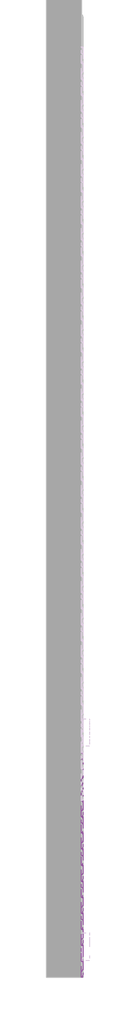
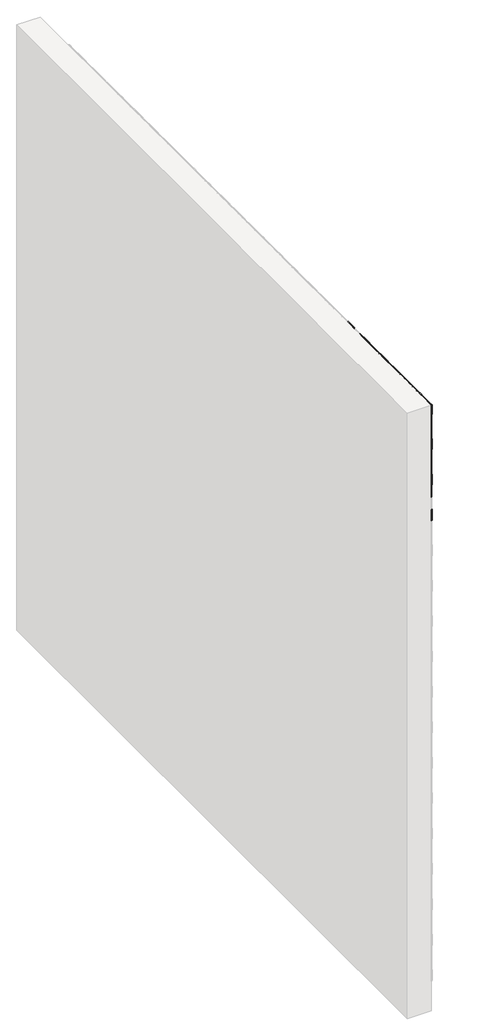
# One storey, part 53 of 121: 143 proxies.
"""IFC4 building model written with IfcOpenShell, lengths in millimetres."""

from ifc_helpers import new_model, si_unit, origin, place, context, project, spatial, transform, mapped, element, save
from components import generic_models_b2b2c5c1, generic_models_9bf73f6f, generic_models_5d175859, generic_models_65d4feed, generic_models_3c364290, generic_models_b652511d, generic_models_45888c4d, generic_models_eac52c18

model = new_model("IFC4")

# Units and contexts
model_context = context("Model", 3, world=origin())
ifc_project = project(units=[si_unit("LENGTHUNIT", "METRE", prefix="MILLI")], contexts=[model_context])

# Site, building, storey
site = spatial("IfcSite", under=ifc_project)
building = spatial("IfcBuilding", under=site)
storey = spatial("IfcBuildingStorey", under=building, Name="PORTOBELLO - SHOWROOM", Elevation=0.0)

# Proxies
placement = place(None, origin())
generic_models_shape = generic_models_b2b2c5c1(model_context)
element("IfcBuildingElementProxy", 1, Name="PBSHOP - CUBICA NUDE 4,8X8,3 : CUBICA NUDE - POSIÇÃO 01", ObjectType="PBSHOP - CUBICA NUDE 4,8X8,3 : CUBICA NUDE - POSIÇÃO 01", at=placement, inside=storey, context=model_context, shape_type="MappedRepresentation", body=[
    mapped(generic_models_shape, transform((150369.5341846, 6578.2262841, 2249.5920413), x_axis=(0.0, 1.0, 0.0), y_axis=(0.0, 0.0, 1.0), z_axis=(1.0, 0.0, 0.0))),
])
element("IfcBuildingElementProxy", 2, Name="PBSHOP - CUBICA NUDE 4,8X8,3 : CUBICA NUDE - POSIÇÃO 01", ObjectType="PBSHOP - CUBICA NUDE 4,8X8,3 : CUBICA NUDE - POSIÇÃO 01", at=placement, inside=storey, context=model_context, shape_type="MappedRepresentation", body=[
    mapped(generic_models_shape, transform((150369.5341846, 6669.0655533, 2249.5920413), x_axis=(0.0, 1.0, 0.0), y_axis=(0.0, 0.0, 1.0), z_axis=(1.0, 0.0, 0.0))),
])
element("IfcBuildingElementProxy", 3, Name="PBSHOP - CUBICA NUDE 4,8X8,3 : CUBICA NUDE - POSIÇÃO 01", ObjectType="PBSHOP - CUBICA NUDE 4,8X8,3 : CUBICA NUDE - POSIÇÃO 01", at=placement, inside=storey, context=model_context, shape_type="MappedRepresentation", body=[
    mapped(generic_models_shape, transform((150369.5341846, 6759.9048225, 2249.5920413), x_axis=(0.0, 1.0, 0.0), y_axis=(0.0, 0.0, 1.0), z_axis=(1.0, 0.0, 0.0))),
])
element("IfcBuildingElementProxy", 4, Name="PBSHOP - CUBICA NUDE 4,8X8,3 : CUBICA NUDE - POSIÇÃO 01", ObjectType="PBSHOP - CUBICA NUDE 4,8X8,3 : CUBICA NUDE - POSIÇÃO 01", at=placement, inside=storey, context=model_context, shape_type="MappedRepresentation", body=[
    mapped(generic_models_shape, transform((150369.5341846, 6850.7440918, 2249.5920413), x_axis=(0.0, 1.0, 0.0), y_axis=(0.0, 0.0, 1.0), z_axis=(1.0, 0.0, 0.0))),
])
element("IfcBuildingElementProxy", 5, Name="PBSHOP - CUBICA NUDE 4,8X8,3 : CUBICA NUDE - POSIÇÃO 01", ObjectType="PBSHOP - CUBICA NUDE 4,8X8,3 : CUBICA NUDE - POSIÇÃO 01", at=placement, inside=storey, context=model_context, shape_type="MappedRepresentation", body=[
    mapped(generic_models_shape, transform((150369.5341846, 6941.583361, 2249.5920413), x_axis=(0.0, 1.0, 0.0), y_axis=(0.0, 0.0, 1.0), z_axis=(1.0, 0.0, 0.0))),
])
element("IfcBuildingElementProxy", 6, Name="PBSHOP - CUBICA NUDE 4,8X8,3 : CUBICA NUDE - POSIÇÃO 01", ObjectType="PBSHOP - CUBICA NUDE 4,8X8,3 : CUBICA NUDE - POSIÇÃO 01", at=placement, inside=storey, context=model_context, shape_type="MappedRepresentation", body=[
    mapped(generic_models_shape, transform((150369.5341846, 6441.9673802, 2328.5266797), x_axis=(0.0, 1.0, 0.0), y_axis=(0.0, 0.0, 1.0), z_axis=(1.0, 0.0, 0.0))),
])
element("IfcBuildingElementProxy", 7, Name="PBSHOP - CUBICA NUDE 4,8X8,3 : CUBICA NUDE - POSIÇÃO 01", ObjectType="PBSHOP - CUBICA NUDE 4,8X8,3 : CUBICA NUDE - POSIÇÃO 01", at=placement, inside=storey, context=model_context, shape_type="MappedRepresentation", body=[
    mapped(generic_models_shape, transform((150369.5341846, 6532.8066494, 2328.5266797), x_axis=(0.0, 1.0, 0.0), y_axis=(0.0, 0.0, 1.0), z_axis=(1.0, 0.0, 0.0))),
])
element("IfcBuildingElementProxy", 8, Name="PBSHOP - CUBICA NUDE 4,8X8,3 : CUBICA NUDE - POSIÇÃO 01", ObjectType="PBSHOP - CUBICA NUDE 4,8X8,3 : CUBICA NUDE - POSIÇÃO 01", at=placement, inside=storey, context=model_context, shape_type="MappedRepresentation", body=[
    mapped(generic_models_shape, transform((150369.5341846, 6623.6459187, 2328.5266797), x_axis=(0.0, 1.0, 0.0), y_axis=(0.0, 0.0, 1.0), z_axis=(1.0, 0.0, 0.0))),
])
element("IfcBuildingElementProxy", 9, Name="PBSHOP - CUBICA NUDE 4,8X8,3 : CUBICA NUDE - POSIÇÃO 01", ObjectType="PBSHOP - CUBICA NUDE 4,8X8,3 : CUBICA NUDE - POSIÇÃO 01", at=placement, inside=storey, context=model_context, shape_type="MappedRepresentation", body=[
    mapped(generic_models_shape, transform((150369.5341846, 6714.4851879, 2328.5266797), x_axis=(0.0, 1.0, 0.0), y_axis=(0.0, 0.0, 1.0), z_axis=(1.0, 0.0, 0.0))),
])
element("IfcBuildingElementProxy", 10, Name="PBSHOP - CUBICA NUDE 4,8X8,3 : CUBICA NUDE - POSIÇÃO 01", ObjectType="PBSHOP - CUBICA NUDE 4,8X8,3 : CUBICA NUDE - POSIÇÃO 01", at=placement, inside=storey, context=model_context, shape_type="MappedRepresentation", body=[
    mapped(generic_models_shape, transform((150369.5341846, 6805.3244572, 2328.5266797), x_axis=(0.0, 1.0, 0.0), y_axis=(0.0, 0.0, 1.0), z_axis=(1.0, 0.0, 0.0))),
])
element("IfcBuildingElementProxy", 11, Name="PBSHOP - CUBICA NUDE 4,8X8,3 : CUBICA NUDE - POSIÇÃO 01", ObjectType="PBSHOP - CUBICA NUDE 4,8X8,3 : CUBICA NUDE - POSIÇÃO 01", at=placement, inside=storey, context=model_context, shape_type="MappedRepresentation", body=[
    mapped(generic_models_shape, transform((150369.5341846, 6896.1637264, 2328.5266797), x_axis=(0.0, 1.0, 0.0), y_axis=(0.0, 0.0, 1.0), z_axis=(1.0, 0.0, 0.0))),
])
element("IfcBuildingElementProxy", 12, Name="PBSHOP - CUBICA NUDE 4,8X8,3 : CUBICA NUDE - POSIÇÃO 01", ObjectType="PBSHOP - CUBICA NUDE 4,8X8,3 : CUBICA NUDE - POSIÇÃO 01", at=placement, inside=storey, context=model_context, shape_type="MappedRepresentation", body=[
    mapped(generic_models_shape, transform((150369.5341846, 6987.0029957, 2328.5266797), x_axis=(0.0, 1.0, 0.0), y_axis=(0.0, 0.0, 1.0), z_axis=(1.0, 0.0, 0.0))),
])
element("IfcBuildingElementProxy", 13, Name="PBSHOP - CUBICA NUDE 4,8X8,3 : CUBICA NUDE - POSIÇÃO 01", ObjectType="PBSHOP - CUBICA NUDE 4,8X8,3 : CUBICA NUDE - POSIÇÃO 01", at=placement, inside=storey, context=model_context, shape_type="MappedRepresentation", body=[
    mapped(generic_models_shape, transform((150369.5341846, 6396.5477456, 2407.461318), x_axis=(0.0, 1.0, 0.0), y_axis=(0.0, 0.0, 1.0), z_axis=(1.0, 0.0, 0.0))),
])
element("IfcBuildingElementProxy", 14, Name="PBSHOP - CUBICA NUDE 4,8X8,3 : CUBICA NUDE - POSIÇÃO 01", ObjectType="PBSHOP - CUBICA NUDE 4,8X8,3 : CUBICA NUDE - POSIÇÃO 01", at=placement, inside=storey, context=model_context, shape_type="MappedRepresentation", body=[
    mapped(generic_models_shape, transform((150369.5341846, 6487.3870148, 2407.461318), x_axis=(0.0, 1.0, 0.0), y_axis=(0.0, 0.0, 1.0), z_axis=(1.0, 0.0, 0.0))),
])
element("IfcBuildingElementProxy", 15, Name="PBSHOP - CUBICA NUDE 4,8X8,3 : CUBICA NUDE - POSIÇÃO 01", ObjectType="PBSHOP - CUBICA NUDE 4,8X8,3 : CUBICA NUDE - POSIÇÃO 01", at=placement, inside=storey, context=model_context, shape_type="MappedRepresentation", body=[
    mapped(generic_models_shape, transform((150369.5341846, 6578.2262841, 2407.461318), x_axis=(0.0, 1.0, 0.0), y_axis=(0.0, 0.0, 1.0), z_axis=(1.0, 0.0, 0.0))),
])
element("IfcBuildingElementProxy", 16, Name="PBSHOP - CUBICA NUDE 4,8X8,3 : CUBICA NUDE - POSIÇÃO 01", ObjectType="PBSHOP - CUBICA NUDE 4,8X8,3 : CUBICA NUDE - POSIÇÃO 01", at=placement, inside=storey, context=model_context, shape_type="MappedRepresentation", body=[
    mapped(generic_models_shape, transform((150369.5341846, 6669.0655533, 2407.461318), x_axis=(0.0, 1.0, 0.0), y_axis=(0.0, 0.0, 1.0), z_axis=(1.0, 0.0, 0.0))),
])
element("IfcBuildingElementProxy", 17, Name="PBSHOP - CUBICA NUDE 4,8X8,3 : CUBICA NUDE - POSIÇÃO 01", ObjectType="PBSHOP - CUBICA NUDE 4,8X8,3 : CUBICA NUDE - POSIÇÃO 01", at=placement, inside=storey, context=model_context, shape_type="MappedRepresentation", body=[
    mapped(generic_models_shape, transform((150369.5341846, 6759.9048225, 2407.461318), x_axis=(0.0, 1.0, 0.0), y_axis=(0.0, 0.0, 1.0), z_axis=(1.0, 0.0, 0.0))),
])
element("IfcBuildingElementProxy", 18, Name="PBSHOP - CUBICA NUDE 4,8X8,3 : CUBICA NUDE - POSIÇÃO 01", ObjectType="PBSHOP - CUBICA NUDE 4,8X8,3 : CUBICA NUDE - POSIÇÃO 01", at=placement, inside=storey, context=model_context, shape_type="MappedRepresentation", body=[
    mapped(generic_models_shape, transform((150369.5341846, 6850.7440918, 2407.461318), x_axis=(0.0, 1.0, 0.0), y_axis=(0.0, 0.0, 1.0), z_axis=(1.0, 0.0, 0.0))),
])
element("IfcBuildingElementProxy", 19, Name="PBSHOP - CUBICA NUDE 4,8X8,3 : CUBICA NUDE - POSIÇÃO 01", ObjectType="PBSHOP - CUBICA NUDE 4,8X8,3 : CUBICA NUDE - POSIÇÃO 01", at=placement, inside=storey, context=model_context, shape_type="MappedRepresentation", body=[
    mapped(generic_models_shape, transform((150369.5341846, 6941.583361, 2407.461318), x_axis=(0.0, 1.0, 0.0), y_axis=(0.0, 0.0, 1.0), z_axis=(1.0, 0.0, 0.0))),
])
element("IfcBuildingElementProxy", 20, Name="PBSHOP - CUBICA NUDE 4,8X8,3 : CUBICA NUDE - POSIÇÃO 01", ObjectType="PBSHOP - CUBICA NUDE 4,8X8,3 : CUBICA NUDE - POSIÇÃO 01", at=placement, inside=storey, context=model_context, shape_type="MappedRepresentation", body=[
    mapped(generic_models_shape, transform((150369.5341846, 6441.9673802, 2486.3959564), x_axis=(0.0, 1.0, 0.0), y_axis=(0.0, 0.0, 1.0), z_axis=(1.0, 0.0, 0.0))),
])
element("IfcBuildingElementProxy", 21, Name="PBSHOP - CUBICA NUDE 4,8X8,3 : CUBICA NUDE - POSIÇÃO 01", ObjectType="PBSHOP - CUBICA NUDE 4,8X8,3 : CUBICA NUDE - POSIÇÃO 01", at=placement, inside=storey, context=model_context, shape_type="MappedRepresentation", body=[
    mapped(generic_models_shape, transform((150369.5341846, 6532.8066494, 2486.3959564), x_axis=(0.0, 1.0, 0.0), y_axis=(0.0, 0.0, 1.0), z_axis=(1.0, 0.0, 0.0))),
])
element("IfcBuildingElementProxy", 22, Name="PBSHOP - CUBICA NUDE 4,8X8,3 : CUBICA NUDE - POSIÇÃO 01", ObjectType="PBSHOP - CUBICA NUDE 4,8X8,3 : CUBICA NUDE - POSIÇÃO 01", at=placement, inside=storey, context=model_context, shape_type="MappedRepresentation", body=[
    mapped(generic_models_shape, transform((150369.5341846, 6623.6459187, 2486.3959564), x_axis=(0.0, 1.0, 0.0), y_axis=(0.0, 0.0, 1.0), z_axis=(1.0, 0.0, 0.0))),
])
element("IfcBuildingElementProxy", 23, Name="PBSHOP - CUBICA NUDE 4,8X8,3 : CUBICA NUDE - POSIÇÃO 01", ObjectType="PBSHOP - CUBICA NUDE 4,8X8,3 : CUBICA NUDE - POSIÇÃO 01", at=placement, inside=storey, context=model_context, shape_type="MappedRepresentation", body=[
    mapped(generic_models_shape, transform((150369.5341846, 6714.4851879, 2486.3959564), x_axis=(0.0, 1.0, 0.0), y_axis=(0.0, 0.0, 1.0), z_axis=(1.0, 0.0, 0.0))),
])
element("IfcBuildingElementProxy", 24, Name="PBSHOP - CUBICA NUDE 4,8X8,3 : CUBICA NUDE - POSIÇÃO 01", ObjectType="PBSHOP - CUBICA NUDE 4,8X8,3 : CUBICA NUDE - POSIÇÃO 01", at=placement, inside=storey, context=model_context, shape_type="MappedRepresentation", body=[
    mapped(generic_models_shape, transform((150369.5341846, 6805.3244572, 2486.3959564), x_axis=(0.0, 1.0, 0.0), y_axis=(0.0, 0.0, 1.0), z_axis=(1.0, 0.0, 0.0))),
])
element("IfcBuildingElementProxy", 25, Name="PBSHOP - CUBICA NUDE 4,8X8,3 : CUBICA NUDE - POSIÇÃO 01", ObjectType="PBSHOP - CUBICA NUDE 4,8X8,3 : CUBICA NUDE - POSIÇÃO 01", at=placement, inside=storey, context=model_context, shape_type="MappedRepresentation", body=[
    mapped(generic_models_shape, transform((150369.5341846, 6896.1637264, 2486.3959564), x_axis=(0.0, 1.0, 0.0), y_axis=(0.0, 0.0, 1.0), z_axis=(1.0, 0.0, 0.0))),
])
element("IfcBuildingElementProxy", 26, Name="PBSHOP - CUBICA NUDE 4,8X8,3 : CUBICA NUDE - POSIÇÃO 01", ObjectType="PBSHOP - CUBICA NUDE 4,8X8,3 : CUBICA NUDE - POSIÇÃO 01", at=placement, inside=storey, context=model_context, shape_type="MappedRepresentation", body=[
    mapped(generic_models_shape, transform((150369.5341846, 6987.0029957, 2486.3959564), x_axis=(0.0, 1.0, 0.0), y_axis=(0.0, 0.0, 1.0), z_axis=(1.0, 0.0, 0.0))),
])
element("IfcBuildingElementProxy", 27, Name="PBSHOP - CUBICA NUDE 4,8X8,3 : CUBICA NUDE - POSIÇÃO 01", ObjectType="PBSHOP - CUBICA NUDE 4,8X8,3 : CUBICA NUDE - POSIÇÃO 01", at=placement, inside=storey, context=model_context, shape_type="MappedRepresentation", body=[
    mapped(generic_models_shape, transform((150369.5341846, 6396.5477456, 2565.3305948), x_axis=(0.0, 1.0, 0.0), y_axis=(0.0, 0.0, 1.0), z_axis=(1.0, 0.0, 0.0))),
])
element("IfcBuildingElementProxy", 28, Name="PBSHOP - CUBICA NUDE 4,8X8,3 : CUBICA NUDE - POSIÇÃO 01", ObjectType="PBSHOP - CUBICA NUDE 4,8X8,3 : CUBICA NUDE - POSIÇÃO 01", at=placement, inside=storey, context=model_context, shape_type="MappedRepresentation", body=[
    mapped(generic_models_shape, transform((150369.5341846, 6487.3870148, 2565.3305948), x_axis=(0.0, 1.0, 0.0), y_axis=(0.0, 0.0, 1.0), z_axis=(1.0, 0.0, 0.0))),
])
element("IfcBuildingElementProxy", 29, Name="PBSHOP - CUBICA NUDE 4,8X8,3 : CUBICA NUDE - POSIÇÃO 01", ObjectType="PBSHOP - CUBICA NUDE 4,8X8,3 : CUBICA NUDE - POSIÇÃO 01", at=placement, inside=storey, context=model_context, shape_type="MappedRepresentation", body=[
    mapped(generic_models_shape, transform((150369.5341846, 6578.2262841, 2565.3305948), x_axis=(0.0, 1.0, 0.0), y_axis=(0.0, 0.0, 1.0), z_axis=(1.0, 0.0, 0.0))),
])
element("IfcBuildingElementProxy", 30, Name="PBSHOP - CUBICA NUDE 4,8X8,3 : CUBICA NUDE - POSIÇÃO 01", ObjectType="PBSHOP - CUBICA NUDE 4,8X8,3 : CUBICA NUDE - POSIÇÃO 01", at=placement, inside=storey, context=model_context, shape_type="MappedRepresentation", body=[
    mapped(generic_models_shape, transform((150369.5341846, 6669.0655533, 2565.3305948), x_axis=(0.0, 1.0, 0.0), y_axis=(0.0, 0.0, 1.0), z_axis=(1.0, 0.0, 0.0))),
])
element("IfcBuildingElementProxy", 31, Name="PBSHOP - CUBICA NUDE 4,8X8,3 : CUBICA NUDE - POSIÇÃO 01", ObjectType="PBSHOP - CUBICA NUDE 4,8X8,3 : CUBICA NUDE - POSIÇÃO 01", at=placement, inside=storey, context=model_context, shape_type="MappedRepresentation", body=[
    mapped(generic_models_shape, transform((150369.5341846, 6759.9048225, 2565.3305948), x_axis=(0.0, 1.0, 0.0), y_axis=(0.0, 0.0, 1.0), z_axis=(1.0, 0.0, 0.0))),
])
element("IfcBuildingElementProxy", 32, Name="PBSHOP - CUBICA NUDE 4,8X8,3 : CUBICA NUDE - POSIÇÃO 01", ObjectType="PBSHOP - CUBICA NUDE 4,8X8,3 : CUBICA NUDE - POSIÇÃO 01", at=placement, inside=storey, context=model_context, shape_type="MappedRepresentation", body=[
    mapped(generic_models_shape, transform((150369.5341846, 6850.7440918, 2565.3305948), x_axis=(0.0, 1.0, 0.0), y_axis=(0.0, 0.0, 1.0), z_axis=(1.0, 0.0, 0.0))),
])
element("IfcBuildingElementProxy", 33, Name="PBSHOP - CUBICA NUDE 4,8X8,3 : CUBICA NUDE - POSIÇÃO 01", ObjectType="PBSHOP - CUBICA NUDE 4,8X8,3 : CUBICA NUDE - POSIÇÃO 01", at=placement, inside=storey, context=model_context, shape_type="MappedRepresentation", body=[
    mapped(generic_models_shape, transform((150369.5341846, 6941.583361, 2565.3305948), x_axis=(0.0, 1.0, 0.0), y_axis=(0.0, 0.0, 1.0), z_axis=(1.0, 0.0, 0.0))),
])
element("IfcBuildingElementProxy", 34, Name="PBSHOP - CUBICA NUDE 4,8X8,3 : CUBICA NUDE - POSIÇÃO 01", ObjectType="PBSHOP - CUBICA NUDE 4,8X8,3 : CUBICA NUDE - POSIÇÃO 01", at=placement, inside=storey, context=model_context, shape_type="MappedRepresentation", body=[
    mapped(generic_models_shape, transform((150369.5341846, 6441.9673802, 2644.2652332), x_axis=(0.0, 1.0, 0.0), y_axis=(0.0, 0.0, 1.0), z_axis=(1.0, 0.0, 0.0))),
])
element("IfcBuildingElementProxy", 35, Name="PBSHOP - CUBICA NUDE 4,8X8,3 : CUBICA NUDE - POSIÇÃO 01", ObjectType="PBSHOP - CUBICA NUDE 4,8X8,3 : CUBICA NUDE - POSIÇÃO 01", at=placement, inside=storey, context=model_context, shape_type="MappedRepresentation", body=[
    mapped(generic_models_shape, transform((150369.5341846, 6532.8066494, 2644.2652332), x_axis=(0.0, 1.0, 0.0), y_axis=(0.0, 0.0, 1.0), z_axis=(1.0, 0.0, 0.0))),
])
element("IfcBuildingElementProxy", 36, Name="PBSHOP - CUBICA NUDE 4,8X8,3 : CUBICA NUDE - POSIÇÃO 01", ObjectType="PBSHOP - CUBICA NUDE 4,8X8,3 : CUBICA NUDE - POSIÇÃO 01", at=placement, inside=storey, context=model_context, shape_type="MappedRepresentation", body=[
    mapped(generic_models_shape, transform((150369.5341846, 6623.6459187, 2644.2652332), x_axis=(0.0, 1.0, 0.0), y_axis=(0.0, 0.0, 1.0), z_axis=(1.0, 0.0, 0.0))),
])
element("IfcBuildingElementProxy", 37, Name="PBSHOP - CUBICA NUDE 4,8X8,3 : CUBICA NUDE - POSIÇÃO 01", ObjectType="PBSHOP - CUBICA NUDE 4,8X8,3 : CUBICA NUDE - POSIÇÃO 01", at=placement, inside=storey, context=model_context, shape_type="MappedRepresentation", body=[
    mapped(generic_models_shape, transform((150369.5341846, 6714.4851879, 2644.2652332), x_axis=(0.0, 1.0, 0.0), y_axis=(0.0, 0.0, 1.0), z_axis=(1.0, 0.0, 0.0))),
])
element("IfcBuildingElementProxy", 38, Name="PBSHOP - CUBICA NUDE 4,8X8,3 : CUBICA NUDE - POSIÇÃO 01", ObjectType="PBSHOP - CUBICA NUDE 4,8X8,3 : CUBICA NUDE - POSIÇÃO 01", at=placement, inside=storey, context=model_context, shape_type="MappedRepresentation", body=[
    mapped(generic_models_shape, transform((150369.5341846, 6805.3244572, 2644.2652332), x_axis=(0.0, 1.0, 0.0), y_axis=(0.0, 0.0, 1.0), z_axis=(1.0, 0.0, 0.0))),
])
element("IfcBuildingElementProxy", 39, Name="PBSHOP - CUBICA NUDE 4,8X8,3 : CUBICA NUDE - POSIÇÃO 01", ObjectType="PBSHOP - CUBICA NUDE 4,8X8,3 : CUBICA NUDE - POSIÇÃO 01", at=placement, inside=storey, context=model_context, shape_type="MappedRepresentation", body=[
    mapped(generic_models_shape, transform((150369.5341846, 6896.1637264, 2644.2652332), x_axis=(0.0, 1.0, 0.0), y_axis=(0.0, 0.0, 1.0), z_axis=(1.0, 0.0, 0.0))),
])
element("IfcBuildingElementProxy", 40, Name="PBSHOP - CUBICA NUDE 4,8X8,3 : CUBICA NUDE - POSIÇÃO 01", ObjectType="PBSHOP - CUBICA NUDE 4,8X8,3 : CUBICA NUDE - POSIÇÃO 01", at=placement, inside=storey, context=model_context, shape_type="MappedRepresentation", body=[
    mapped(generic_models_shape, transform((150369.5341846, 6987.0029957, 2644.2652332), x_axis=(0.0, 1.0, 0.0), y_axis=(0.0, 0.0, 1.0), z_axis=(1.0, 0.0, 0.0))),
])
generic_models_2_shape = generic_models_9bf73f6f(model_context)
element("IfcBuildingElementProxy", 41, Name="PBSHOP - CUBICA NUDE 4,8X8,3 : CUBICA NUDE - POSIÇÃO 03", ObjectType="PBSHOP - CUBICA NUDE 4,8X8,3 : CUBICA NUDE - POSIÇÃO 03", at=placement, inside=storey, context=model_context, shape_type="MappedRepresentation", body=[
    mapped(generic_models_2_shape, transform((150369.5341846, 6464.6793567, 2210.0835117), x_axis=(0.0, 1.0, 0.0), y_axis=(0.0, 0.0, 1.0), z_axis=(1.0, 0.0, 0.0))),
])
element("IfcBuildingElementProxy", 42, Name="PBSHOP - CUBICA NUDE 4,8X8,3 : CUBICA NUDE - POSIÇÃO 03", ObjectType="PBSHOP - CUBICA NUDE 4,8X8,3 : CUBICA NUDE - POSIÇÃO 03", at=placement, inside=storey, context=model_context, shape_type="MappedRepresentation", body=[
    mapped(generic_models_2_shape, transform((150369.5341846, 6555.5186259, 2210.0835117), x_axis=(0.0, 1.0, 0.0), y_axis=(0.0, 0.0, 1.0), z_axis=(1.0, 0.0, 0.0))),
])
element("IfcBuildingElementProxy", 43, Name="PBSHOP - CUBICA NUDE 4,8X8,3 : CUBICA NUDE - POSIÇÃO 03", ObjectType="PBSHOP - CUBICA NUDE 4,8X8,3 : CUBICA NUDE - POSIÇÃO 03", at=placement, inside=storey, context=model_context, shape_type="MappedRepresentation", body=[
    mapped(generic_models_2_shape, transform((150369.5341846, 6646.3578952, 2210.0835117), x_axis=(0.0, 1.0, 0.0), y_axis=(0.0, 0.0, 1.0), z_axis=(1.0, 0.0, 0.0))),
])
element("IfcBuildingElementProxy", 44, Name="PBSHOP - CUBICA NUDE 4,8X8,3 : CUBICA NUDE - POSIÇÃO 03", ObjectType="PBSHOP - CUBICA NUDE 4,8X8,3 : CUBICA NUDE - POSIÇÃO 03", at=placement, inside=storey, context=model_context, shape_type="MappedRepresentation", body=[
    mapped(generic_models_2_shape, transform((150369.5341846, 6737.1971644, 2210.0835117), x_axis=(0.0, 1.0, 0.0), y_axis=(0.0, 0.0, 1.0), z_axis=(1.0, 0.0, 0.0))),
])
element("IfcBuildingElementProxy", 45, Name="PBSHOP - CUBICA NUDE 4,8X8,3 : CUBICA NUDE - POSIÇÃO 03", ObjectType="PBSHOP - CUBICA NUDE 4,8X8,3 : CUBICA NUDE - POSIÇÃO 03", at=placement, inside=storey, context=model_context, shape_type="MappedRepresentation", body=[
    mapped(generic_models_2_shape, transform((150369.5341846, 6828.0364336, 2210.0835117), x_axis=(0.0, 1.0, 0.0), y_axis=(0.0, 0.0, 1.0), z_axis=(1.0, 0.0, 0.0))),
])
element("IfcBuildingElementProxy", 46, Name="PBSHOP - CUBICA NUDE 4,8X8,3 : CUBICA NUDE - POSIÇÃO 03", ObjectType="PBSHOP - CUBICA NUDE 4,8X8,3 : CUBICA NUDE - POSIÇÃO 03", at=placement, inside=storey, context=model_context, shape_type="MappedRepresentation", body=[
    mapped(generic_models_2_shape, transform((150369.5341846, 6918.8757029, 2210.0835117), x_axis=(0.0, 1.0, 0.0), y_axis=(0.0, 0.0, 1.0), z_axis=(1.0, 0.0, 0.0))),
])
element("IfcBuildingElementProxy", 47, Name="PBSHOP - CUBICA NUDE 4,8X8,3 : CUBICA NUDE - POSIÇÃO 03", ObjectType="PBSHOP - CUBICA NUDE 4,8X8,3 : CUBICA NUDE - POSIÇÃO 03", at=placement, inside=storey, context=model_context, shape_type="MappedRepresentation", body=[
    mapped(generic_models_2_shape, transform((150369.5341846, 6419.259722, 2289.0181501), x_axis=(0.0, 1.0, 0.0), y_axis=(0.0, 0.0, 1.0), z_axis=(1.0, 0.0, 0.0))),
])
element("IfcBuildingElementProxy", 48, Name="PBSHOP - CUBICA NUDE 4,8X8,3 : CUBICA NUDE - POSIÇÃO 03", ObjectType="PBSHOP - CUBICA NUDE 4,8X8,3 : CUBICA NUDE - POSIÇÃO 03", at=placement, inside=storey, context=model_context, shape_type="MappedRepresentation", body=[
    mapped(generic_models_2_shape, transform((150369.5341846, 6510.0989913, 2289.0181501), x_axis=(0.0, 1.0, 0.0), y_axis=(0.0, 0.0, 1.0), z_axis=(1.0, 0.0, 0.0))),
])
element("IfcBuildingElementProxy", 49, Name="PBSHOP - CUBICA NUDE 4,8X8,3 : CUBICA NUDE - POSIÇÃO 03", ObjectType="PBSHOP - CUBICA NUDE 4,8X8,3 : CUBICA NUDE - POSIÇÃO 03", at=placement, inside=storey, context=model_context, shape_type="MappedRepresentation", body=[
    mapped(generic_models_2_shape, transform((150369.5341846, 6600.9382605, 2289.0181501), x_axis=(0.0, 1.0, 0.0), y_axis=(0.0, 0.0, 1.0), z_axis=(1.0, 0.0, 0.0))),
])
element("IfcBuildingElementProxy", 50, Name="PBSHOP - CUBICA NUDE 4,8X8,3 : CUBICA NUDE - POSIÇÃO 03", ObjectType="PBSHOP - CUBICA NUDE 4,8X8,3 : CUBICA NUDE - POSIÇÃO 03", at=placement, inside=storey, context=model_context, shape_type="MappedRepresentation", body=[
    mapped(generic_models_2_shape, transform((150369.5341846, 6691.7775298, 2289.0181501), x_axis=(0.0, 1.0, 0.0), y_axis=(0.0, 0.0, 1.0), z_axis=(1.0, 0.0, 0.0))),
])
element("IfcBuildingElementProxy", 51, Name="PBSHOP - CUBICA NUDE 4,8X8,3 : CUBICA NUDE - POSIÇÃO 03", ObjectType="PBSHOP - CUBICA NUDE 4,8X8,3 : CUBICA NUDE - POSIÇÃO 03", at=placement, inside=storey, context=model_context, shape_type="MappedRepresentation", body=[
    mapped(generic_models_2_shape, transform((150369.5341846, 6782.616799, 2289.0181501), x_axis=(0.0, 1.0, 0.0), y_axis=(0.0, 0.0, 1.0), z_axis=(1.0, 0.0, 0.0))),
])
element("IfcBuildingElementProxy", 52, Name="PBSHOP - CUBICA NUDE 4,8X8,3 : CUBICA NUDE - POSIÇÃO 03", ObjectType="PBSHOP - CUBICA NUDE 4,8X8,3 : CUBICA NUDE - POSIÇÃO 03", at=placement, inside=storey, context=model_context, shape_type="MappedRepresentation", body=[
    mapped(generic_models_2_shape, transform((150369.5341846, 6873.4560683, 2289.0181501), x_axis=(0.0, 1.0, 0.0), y_axis=(0.0, 0.0, 1.0), z_axis=(1.0, 0.0, 0.0))),
])
element("IfcBuildingElementProxy", 53, Name="PBSHOP - CUBICA NUDE 4,8X8,3 : CUBICA NUDE - POSIÇÃO 03", ObjectType="PBSHOP - CUBICA NUDE 4,8X8,3 : CUBICA NUDE - POSIÇÃO 03", at=placement, inside=storey, context=model_context, shape_type="MappedRepresentation", body=[
    mapped(generic_models_2_shape, transform((150369.5341846, 6964.2953375, 2289.0181501), x_axis=(0.0, 1.0, 0.0), y_axis=(0.0, 0.0, 1.0), z_axis=(1.0, 0.0, 0.0))),
])
element("IfcBuildingElementProxy", 54, Name="PBSHOP - CUBICA NUDE 4,8X8,3 : CUBICA NUDE - POSIÇÃO 03", ObjectType="PBSHOP - CUBICA NUDE 4,8X8,3 : CUBICA NUDE - POSIÇÃO 03", at=placement, inside=storey, context=model_context, shape_type="MappedRepresentation", body=[
    mapped(generic_models_2_shape, transform((150369.5341846, 6464.6793567, 2367.9527884), x_axis=(0.0, 1.0, 0.0), y_axis=(0.0, 0.0, 1.0), z_axis=(1.0, 0.0, 0.0))),
])
element("IfcBuildingElementProxy", 55, Name="PBSHOP - CUBICA NUDE 4,8X8,3 : CUBICA NUDE - POSIÇÃO 03", ObjectType="PBSHOP - CUBICA NUDE 4,8X8,3 : CUBICA NUDE - POSIÇÃO 03", at=placement, inside=storey, context=model_context, shape_type="MappedRepresentation", body=[
    mapped(generic_models_2_shape, transform((150369.5341846, 6555.5186259, 2367.9527884), x_axis=(0.0, 1.0, 0.0), y_axis=(0.0, 0.0, 1.0), z_axis=(1.0, 0.0, 0.0))),
])
element("IfcBuildingElementProxy", 56, Name="PBSHOP - CUBICA NUDE 4,8X8,3 : CUBICA NUDE - POSIÇÃO 03", ObjectType="PBSHOP - CUBICA NUDE 4,8X8,3 : CUBICA NUDE - POSIÇÃO 03", at=placement, inside=storey, context=model_context, shape_type="MappedRepresentation", body=[
    mapped(generic_models_2_shape, transform((150369.5341846, 6646.3578952, 2367.9527884), x_axis=(0.0, 1.0, 0.0), y_axis=(0.0, 0.0, 1.0), z_axis=(1.0, 0.0, 0.0))),
])
element("IfcBuildingElementProxy", 57, Name="PBSHOP - CUBICA NUDE 4,8X8,3 : CUBICA NUDE - POSIÇÃO 03", ObjectType="PBSHOP - CUBICA NUDE 4,8X8,3 : CUBICA NUDE - POSIÇÃO 03", at=placement, inside=storey, context=model_context, shape_type="MappedRepresentation", body=[
    mapped(generic_models_2_shape, transform((150369.5341846, 6737.1971644, 2367.9527884), x_axis=(0.0, 1.0, 0.0), y_axis=(0.0, 0.0, 1.0), z_axis=(1.0, 0.0, 0.0))),
])
element("IfcBuildingElementProxy", 58, Name="PBSHOP - CUBICA NUDE 4,8X8,3 : CUBICA NUDE - POSIÇÃO 03", ObjectType="PBSHOP - CUBICA NUDE 4,8X8,3 : CUBICA NUDE - POSIÇÃO 03", at=placement, inside=storey, context=model_context, shape_type="MappedRepresentation", body=[
    mapped(generic_models_2_shape, transform((150369.5341846, 6828.0364336, 2367.9527884), x_axis=(0.0, 1.0, 0.0), y_axis=(0.0, 0.0, 1.0), z_axis=(1.0, 0.0, 0.0))),
])
element("IfcBuildingElementProxy", 59, Name="PBSHOP - CUBICA NUDE 4,8X8,3 : CUBICA NUDE - POSIÇÃO 03", ObjectType="PBSHOP - CUBICA NUDE 4,8X8,3 : CUBICA NUDE - POSIÇÃO 03", at=placement, inside=storey, context=model_context, shape_type="MappedRepresentation", body=[
    mapped(generic_models_2_shape, transform((150369.5341846, 6918.8757029, 2367.9527884), x_axis=(0.0, 1.0, 0.0), y_axis=(0.0, 0.0, 1.0), z_axis=(1.0, 0.0, 0.0))),
])
element("IfcBuildingElementProxy", 60, Name="PBSHOP - CUBICA NUDE 4,8X8,3 : CUBICA NUDE - POSIÇÃO 03", ObjectType="PBSHOP - CUBICA NUDE 4,8X8,3 : CUBICA NUDE - POSIÇÃO 03", at=placement, inside=storey, context=model_context, shape_type="MappedRepresentation", body=[
    mapped(generic_models_2_shape, transform((150369.5341846, 6419.259722, 2446.8874268), x_axis=(0.0, 1.0, 0.0), y_axis=(0.0, 0.0, 1.0), z_axis=(1.0, 0.0, 0.0))),
])
element("IfcBuildingElementProxy", 61, Name="PBSHOP - CUBICA NUDE 4,8X8,3 : CUBICA NUDE - POSIÇÃO 03", ObjectType="PBSHOP - CUBICA NUDE 4,8X8,3 : CUBICA NUDE - POSIÇÃO 03", at=placement, inside=storey, context=model_context, shape_type="MappedRepresentation", body=[
    mapped(generic_models_2_shape, transform((150369.5341846, 6510.0989913, 2446.8874268), x_axis=(0.0, 1.0, 0.0), y_axis=(0.0, 0.0, 1.0), z_axis=(1.0, 0.0, 0.0))),
])
element("IfcBuildingElementProxy", 62, Name="PBSHOP - CUBICA NUDE 4,8X8,3 : CUBICA NUDE - POSIÇÃO 03", ObjectType="PBSHOP - CUBICA NUDE 4,8X8,3 : CUBICA NUDE - POSIÇÃO 03", at=placement, inside=storey, context=model_context, shape_type="MappedRepresentation", body=[
    mapped(generic_models_2_shape, transform((150369.5341846, 6600.9382605, 2446.8874268), x_axis=(0.0, 1.0, 0.0), y_axis=(0.0, 0.0, 1.0), z_axis=(1.0, 0.0, 0.0))),
])
element("IfcBuildingElementProxy", 63, Name="PBSHOP - CUBICA NUDE 4,8X8,3 : CUBICA NUDE - POSIÇÃO 03", ObjectType="PBSHOP - CUBICA NUDE 4,8X8,3 : CUBICA NUDE - POSIÇÃO 03", at=placement, inside=storey, context=model_context, shape_type="MappedRepresentation", body=[
    mapped(generic_models_2_shape, transform((150369.5341846, 6691.7775298, 2446.8874268), x_axis=(0.0, 1.0, 0.0), y_axis=(0.0, 0.0, 1.0), z_axis=(1.0, 0.0, 0.0))),
])
element("IfcBuildingElementProxy", 64, Name="PBSHOP - CUBICA NUDE 4,8X8,3 : CUBICA NUDE - POSIÇÃO 03", ObjectType="PBSHOP - CUBICA NUDE 4,8X8,3 : CUBICA NUDE - POSIÇÃO 03", at=placement, inside=storey, context=model_context, shape_type="MappedRepresentation", body=[
    mapped(generic_models_2_shape, transform((150369.5341846, 6782.616799, 2446.8874268), x_axis=(0.0, 1.0, 0.0), y_axis=(0.0, 0.0, 1.0), z_axis=(1.0, 0.0, 0.0))),
])
element("IfcBuildingElementProxy", 65, Name="PBSHOP - CUBICA NUDE 4,8X8,3 : CUBICA NUDE - POSIÇÃO 03", ObjectType="PBSHOP - CUBICA NUDE 4,8X8,3 : CUBICA NUDE - POSIÇÃO 03", at=placement, inside=storey, context=model_context, shape_type="MappedRepresentation", body=[
    mapped(generic_models_2_shape, transform((150369.5341846, 6873.4560683, 2446.8874268), x_axis=(0.0, 1.0, 0.0), y_axis=(0.0, 0.0, 1.0), z_axis=(1.0, 0.0, 0.0))),
])
element("IfcBuildingElementProxy", 66, Name="PBSHOP - CUBICA NUDE 4,8X8,3 : CUBICA NUDE - POSIÇÃO 03", ObjectType="PBSHOP - CUBICA NUDE 4,8X8,3 : CUBICA NUDE - POSIÇÃO 03", at=placement, inside=storey, context=model_context, shape_type="MappedRepresentation", body=[
    mapped(generic_models_2_shape, transform((150369.5341846, 6964.2953375, 2446.8874268), x_axis=(0.0, 1.0, 0.0), y_axis=(0.0, 0.0, 1.0), z_axis=(1.0, 0.0, 0.0))),
])
element("IfcBuildingElementProxy", 67, Name="PBSHOP - CUBICA NUDE 4,8X8,3 : CUBICA NUDE - POSIÇÃO 03", ObjectType="PBSHOP - CUBICA NUDE 4,8X8,3 : CUBICA NUDE - POSIÇÃO 03", at=placement, inside=storey, context=model_context, shape_type="MappedRepresentation", body=[
    mapped(generic_models_2_shape, transform((150369.5341846, 6464.6793567, 2525.8220652), x_axis=(0.0, 1.0, 0.0), y_axis=(0.0, 0.0, 1.0), z_axis=(1.0, 0.0, 0.0))),
])
element("IfcBuildingElementProxy", 68, Name="PBSHOP - CUBICA NUDE 4,8X8,3 : CUBICA NUDE - POSIÇÃO 03", ObjectType="PBSHOP - CUBICA NUDE 4,8X8,3 : CUBICA NUDE - POSIÇÃO 03", at=placement, inside=storey, context=model_context, shape_type="MappedRepresentation", body=[
    mapped(generic_models_2_shape, transform((150369.5341846, 6555.5186259, 2525.8220652), x_axis=(0.0, 1.0, 0.0), y_axis=(0.0, 0.0, 1.0), z_axis=(1.0, 0.0, 0.0))),
])
element("IfcBuildingElementProxy", 69, Name="PBSHOP - CUBICA NUDE 4,8X8,3 : CUBICA NUDE - POSIÇÃO 03", ObjectType="PBSHOP - CUBICA NUDE 4,8X8,3 : CUBICA NUDE - POSIÇÃO 03", at=placement, inside=storey, context=model_context, shape_type="MappedRepresentation", body=[
    mapped(generic_models_2_shape, transform((150369.5341846, 6646.3578952, 2525.8220652), x_axis=(0.0, 1.0, 0.0), y_axis=(0.0, 0.0, 1.0), z_axis=(1.0, 0.0, 0.0))),
])
element("IfcBuildingElementProxy", 70, Name="PBSHOP - CUBICA NUDE 4,8X8,3 : CUBICA NUDE - POSIÇÃO 03", ObjectType="PBSHOP - CUBICA NUDE 4,8X8,3 : CUBICA NUDE - POSIÇÃO 03", at=placement, inside=storey, context=model_context, shape_type="MappedRepresentation", body=[
    mapped(generic_models_2_shape, transform((150369.5341846, 6737.1971644, 2525.8220652), x_axis=(0.0, 1.0, 0.0), y_axis=(0.0, 0.0, 1.0), z_axis=(1.0, 0.0, 0.0))),
])
element("IfcBuildingElementProxy", 71, Name="PBSHOP - CUBICA NUDE 4,8X8,3 : CUBICA NUDE - POSIÇÃO 03", ObjectType="PBSHOP - CUBICA NUDE 4,8X8,3 : CUBICA NUDE - POSIÇÃO 03", at=placement, inside=storey, context=model_context, shape_type="MappedRepresentation", body=[
    mapped(generic_models_2_shape, transform((150369.5341846, 6828.0364336, 2525.8220652), x_axis=(0.0, 1.0, 0.0), y_axis=(0.0, 0.0, 1.0), z_axis=(1.0, 0.0, 0.0))),
])
element("IfcBuildingElementProxy", 72, Name="PBSHOP - CUBICA NUDE 4,8X8,3 : CUBICA NUDE - POSIÇÃO 03", ObjectType="PBSHOP - CUBICA NUDE 4,8X8,3 : CUBICA NUDE - POSIÇÃO 03", at=placement, inside=storey, context=model_context, shape_type="MappedRepresentation", body=[
    mapped(generic_models_2_shape, transform((150369.5341846, 6918.8757029, 2525.8220652), x_axis=(0.0, 1.0, 0.0), y_axis=(0.0, 0.0, 1.0), z_axis=(1.0, 0.0, 0.0))),
])
element("IfcBuildingElementProxy", 73, Name="PBSHOP - CUBICA NUDE 4,8X8,3 : CUBICA NUDE - POSIÇÃO 03", ObjectType="PBSHOP - CUBICA NUDE 4,8X8,3 : CUBICA NUDE - POSIÇÃO 03", at=placement, inside=storey, context=model_context, shape_type="MappedRepresentation", body=[
    mapped(generic_models_2_shape, transform((150369.5341846, 6419.259722, 2604.7567035), x_axis=(0.0, 1.0, 0.0), y_axis=(0.0, 0.0, 1.0), z_axis=(1.0, 0.0, 0.0))),
])
element("IfcBuildingElementProxy", 74, Name="PBSHOP - CUBICA NUDE 4,8X8,3 : CUBICA NUDE - POSIÇÃO 03", ObjectType="PBSHOP - CUBICA NUDE 4,8X8,3 : CUBICA NUDE - POSIÇÃO 03", at=placement, inside=storey, context=model_context, shape_type="MappedRepresentation", body=[
    mapped(generic_models_2_shape, transform((150369.5341846, 6510.0989913, 2604.7567035), x_axis=(0.0, 1.0, 0.0), y_axis=(0.0, 0.0, 1.0), z_axis=(1.0, 0.0, 0.0))),
])
element("IfcBuildingElementProxy", 75, Name="PBSHOP - CUBICA NUDE 4,8X8,3 : CUBICA NUDE - POSIÇÃO 03", ObjectType="PBSHOP - CUBICA NUDE 4,8X8,3 : CUBICA NUDE - POSIÇÃO 03", at=placement, inside=storey, context=model_context, shape_type="MappedRepresentation", body=[
    mapped(generic_models_2_shape, transform((150369.5341846, 6600.9382605, 2604.7567035), x_axis=(0.0, 1.0, 0.0), y_axis=(0.0, 0.0, 1.0), z_axis=(1.0, 0.0, 0.0))),
])
element("IfcBuildingElementProxy", 76, Name="PBSHOP - CUBICA NUDE 4,8X8,3 : CUBICA NUDE - POSIÇÃO 03", ObjectType="PBSHOP - CUBICA NUDE 4,8X8,3 : CUBICA NUDE - POSIÇÃO 03", at=placement, inside=storey, context=model_context, shape_type="MappedRepresentation", body=[
    mapped(generic_models_2_shape, transform((150369.5341846, 6691.7775298, 2604.7567035), x_axis=(0.0, 1.0, 0.0), y_axis=(0.0, 0.0, 1.0), z_axis=(1.0, 0.0, 0.0))),
])
element("IfcBuildingElementProxy", 77, Name="PBSHOP - CUBICA NUDE 4,8X8,3 : CUBICA NUDE - POSIÇÃO 03", ObjectType="PBSHOP - CUBICA NUDE 4,8X8,3 : CUBICA NUDE - POSIÇÃO 03", at=placement, inside=storey, context=model_context, shape_type="MappedRepresentation", body=[
    mapped(generic_models_2_shape, transform((150369.5341846, 6782.616799, 2604.7567035), x_axis=(0.0, 1.0, 0.0), y_axis=(0.0, 0.0, 1.0), z_axis=(1.0, 0.0, 0.0))),
])
element("IfcBuildingElementProxy", 78, Name="PBSHOP - CUBICA NUDE 4,8X8,3 : CUBICA NUDE - POSIÇÃO 03", ObjectType="PBSHOP - CUBICA NUDE 4,8X8,3 : CUBICA NUDE - POSIÇÃO 03", at=placement, inside=storey, context=model_context, shape_type="MappedRepresentation", body=[
    mapped(generic_models_2_shape, transform((150369.5341846, 6873.4560683, 2604.7567035), x_axis=(0.0, 1.0, 0.0), y_axis=(0.0, 0.0, 1.0), z_axis=(1.0, 0.0, 0.0))),
])
element("IfcBuildingElementProxy", 79, Name="PBSHOP - CUBICA NUDE 4,8X8,3 : CUBICA NUDE - POSIÇÃO 03", ObjectType="PBSHOP - CUBICA NUDE 4,8X8,3 : CUBICA NUDE - POSIÇÃO 03", at=placement, inside=storey, context=model_context, shape_type="MappedRepresentation", body=[
    mapped(generic_models_2_shape, transform((150369.5341846, 6964.2953375, 2604.7567035), x_axis=(0.0, 1.0, 0.0), y_axis=(0.0, 0.0, 1.0), z_axis=(1.0, 0.0, 0.0))),
])
generic_models_3_shape = generic_models_5d175859(model_context)
element("IfcBuildingElementProxy", 80, Name="PBSHOP - CUBICA NUDE 4,8X8,3 : CUBICA NUDE - POSIÇÃO 01", ObjectType="PBSHOP - CUBICA NUDE 4,8X8,3 : CUBICA NUDE - POSIÇÃO 01", at=placement, inside=storey, context=model_context, shape_type="MappedRepresentation", body=[
    mapped(generic_models_3_shape, transform((150369.5341846, 6532.8109678, 2249.5920413), x_axis=(0.0, -1.0, 0.0), y_axis=(0.0, 0.0, -1.0), z_axis=(1.0, 0.0, 0.0))),
])
element("IfcBuildingElementProxy", 81, Name="PBSHOP - CUBICA NUDE 4,8X8,3 : CUBICA NUDE - POSIÇÃO 01", ObjectType="PBSHOP - CUBICA NUDE 4,8X8,3 : CUBICA NUDE - POSIÇÃO 01", at=placement, inside=storey, context=model_context, shape_type="MappedRepresentation", body=[
    mapped(generic_models_3_shape, transform((150369.5341846, 6623.650237, 2249.5920413), x_axis=(0.0, -1.0, 0.0), y_axis=(0.0, 0.0, -1.0), z_axis=(1.0, 0.0, 0.0))),
])
element("IfcBuildingElementProxy", 82, Name="PBSHOP - CUBICA NUDE 4,8X8,3 : CUBICA NUDE - POSIÇÃO 01", ObjectType="PBSHOP - CUBICA NUDE 4,8X8,3 : CUBICA NUDE - POSIÇÃO 01", at=placement, inside=storey, context=model_context, shape_type="MappedRepresentation", body=[
    mapped(generic_models_3_shape, transform((150369.5341846, 6714.4895063, 2249.5920413), x_axis=(0.0, -1.0, 0.0), y_axis=(0.0, 0.0, -1.0), z_axis=(1.0, 0.0, 0.0))),
])
element("IfcBuildingElementProxy", 83, Name="PBSHOP - CUBICA NUDE 4,8X8,3 : CUBICA NUDE - POSIÇÃO 01", ObjectType="PBSHOP - CUBICA NUDE 4,8X8,3 : CUBICA NUDE - POSIÇÃO 01", at=placement, inside=storey, context=model_context, shape_type="MappedRepresentation", body=[
    mapped(generic_models_3_shape, transform((150369.5341846, 6805.3287755, 2249.5920413), x_axis=(0.0, -1.0, 0.0), y_axis=(0.0, 0.0, -1.0), z_axis=(1.0, 0.0, 0.0))),
])
element("IfcBuildingElementProxy", 84, Name="PBSHOP - CUBICA NUDE 4,8X8,3 : CUBICA NUDE - POSIÇÃO 01", ObjectType="PBSHOP - CUBICA NUDE 4,8X8,3 : CUBICA NUDE - POSIÇÃO 01", at=placement, inside=storey, context=model_context, shape_type="MappedRepresentation", body=[
    mapped(generic_models_3_shape, transform((150369.5341846, 6896.1680447, 2249.5920413), x_axis=(0.0, -1.0, 0.0), y_axis=(0.0, 0.0, -1.0), z_axis=(1.0, 0.0, 0.0))),
])
element("IfcBuildingElementProxy", 85, Name="PBSHOP - CUBICA NUDE 4,8X8,3 : CUBICA NUDE - POSIÇÃO 01", ObjectType="PBSHOP - CUBICA NUDE 4,8X8,3 : CUBICA NUDE - POSIÇÃO 01", at=placement, inside=storey, context=model_context, shape_type="MappedRepresentation", body=[
    mapped(generic_models_3_shape, transform((150369.5341846, 6987.007314, 2249.5920413), x_axis=(0.0, -1.0, 0.0), y_axis=(0.0, 0.0, -1.0), z_axis=(1.0, 0.0, 0.0))),
])
element("IfcBuildingElementProxy", 86, Name="PBSHOP - CUBICA NUDE 4,8X8,3 : CUBICA NUDE - POSIÇÃO 01", ObjectType="PBSHOP - CUBICA NUDE 4,8X8,3 : CUBICA NUDE - POSIÇÃO 01", at=placement, inside=storey, context=model_context, shape_type="MappedRepresentation", body=[
    mapped(generic_models_3_shape, transform((150369.5341846, 6487.3913331, 2328.5266797), x_axis=(0.0, -1.0, 0.0), y_axis=(0.0, 0.0, -1.0), z_axis=(1.0, 0.0, 0.0))),
])
element("IfcBuildingElementProxy", 87, Name="PBSHOP - CUBICA NUDE 4,8X8,3 : CUBICA NUDE - POSIÇÃO 01", ObjectType="PBSHOP - CUBICA NUDE 4,8X8,3 : CUBICA NUDE - POSIÇÃO 01", at=placement, inside=storey, context=model_context, shape_type="MappedRepresentation", body=[
    mapped(generic_models_3_shape, transform((150369.5341846, 6578.2306024, 2328.5266797), x_axis=(0.0, -1.0, 0.0), y_axis=(0.0, 0.0, -1.0), z_axis=(1.0, 0.0, 0.0))),
])
element("IfcBuildingElementProxy", 88, Name="PBSHOP - CUBICA NUDE 4,8X8,3 : CUBICA NUDE - POSIÇÃO 01", ObjectType="PBSHOP - CUBICA NUDE 4,8X8,3 : CUBICA NUDE - POSIÇÃO 01", at=placement, inside=storey, context=model_context, shape_type="MappedRepresentation", body=[
    mapped(generic_models_3_shape, transform((150369.5341846, 6669.0698716, 2328.5266797), x_axis=(0.0, -1.0, 0.0), y_axis=(0.0, 0.0, -1.0), z_axis=(1.0, 0.0, 0.0))),
])
element("IfcBuildingElementProxy", 89, Name="PBSHOP - CUBICA NUDE 4,8X8,3 : CUBICA NUDE - POSIÇÃO 01", ObjectType="PBSHOP - CUBICA NUDE 4,8X8,3 : CUBICA NUDE - POSIÇÃO 01", at=placement, inside=storey, context=model_context, shape_type="MappedRepresentation", body=[
    mapped(generic_models_3_shape, transform((150369.5341846, 6759.9091409, 2328.5266797), x_axis=(0.0, -1.0, 0.0), y_axis=(0.0, 0.0, -1.0), z_axis=(1.0, 0.0, 0.0))),
])
element("IfcBuildingElementProxy", 90, Name="PBSHOP - CUBICA NUDE 4,8X8,3 : CUBICA NUDE - POSIÇÃO 01", ObjectType="PBSHOP - CUBICA NUDE 4,8X8,3 : CUBICA NUDE - POSIÇÃO 01", at=placement, inside=storey, context=model_context, shape_type="MappedRepresentation", body=[
    mapped(generic_models_3_shape, transform((150369.5341846, 6850.7484101, 2328.5266797), x_axis=(0.0, -1.0, 0.0), y_axis=(0.0, 0.0, -1.0), z_axis=(1.0, 0.0, 0.0))),
])
element("IfcBuildingElementProxy", 91, Name="PBSHOP - CUBICA NUDE 4,8X8,3 : CUBICA NUDE - POSIÇÃO 01", ObjectType="PBSHOP - CUBICA NUDE 4,8X8,3 : CUBICA NUDE - POSIÇÃO 01", at=placement, inside=storey, context=model_context, shape_type="MappedRepresentation", body=[
    mapped(generic_models_3_shape, transform((150369.5341846, 6941.5876794, 2328.5266797), x_axis=(0.0, -1.0, 0.0), y_axis=(0.0, 0.0, -1.0), z_axis=(1.0, 0.0, 0.0))),
])
element("IfcBuildingElementProxy", 92, Name="PBSHOP - CUBICA NUDE 4,8X8,3 : CUBICA NUDE - POSIÇÃO 01", ObjectType="PBSHOP - CUBICA NUDE 4,8X8,3 : CUBICA NUDE - POSIÇÃO 01", at=placement, inside=storey, context=model_context, shape_type="MappedRepresentation", body=[
    mapped(generic_models_3_shape, transform((150369.5341846, 6396.5520639, 2328.5266797), x_axis=(0.0, -1.0, 0.0), y_axis=(0.0, 0.0, -1.0), z_axis=(1.0, 0.0, 0.0))),
])
element("IfcBuildingElementProxy", 93, Name="PBSHOP - CUBICA NUDE 4,8X8,3 : CUBICA NUDE - POSIÇÃO 01", ObjectType="PBSHOP - CUBICA NUDE 4,8X8,3 : CUBICA NUDE - POSIÇÃO 01", at=placement, inside=storey, context=model_context, shape_type="MappedRepresentation", body=[
    mapped(generic_models_3_shape, transform((150369.5341846, 6441.9716985, 2407.461318), x_axis=(0.0, -1.0, 0.0), y_axis=(0.0, 0.0, -1.0), z_axis=(1.0, 0.0, 0.0))),
])
element("IfcBuildingElementProxy", 94, Name="PBSHOP - CUBICA NUDE 4,8X8,3 : CUBICA NUDE - POSIÇÃO 01", ObjectType="PBSHOP - CUBICA NUDE 4,8X8,3 : CUBICA NUDE - POSIÇÃO 01", at=placement, inside=storey, context=model_context, shape_type="MappedRepresentation", body=[
    mapped(generic_models_3_shape, transform((150369.5341846, 6532.8109678, 2407.461318), x_axis=(0.0, -1.0, 0.0), y_axis=(0.0, 0.0, -1.0), z_axis=(1.0, 0.0, 0.0))),
])
element("IfcBuildingElementProxy", 95, Name="PBSHOP - CUBICA NUDE 4,8X8,3 : CUBICA NUDE - POSIÇÃO 01", ObjectType="PBSHOP - CUBICA NUDE 4,8X8,3 : CUBICA NUDE - POSIÇÃO 01", at=placement, inside=storey, context=model_context, shape_type="MappedRepresentation", body=[
    mapped(generic_models_3_shape, transform((150369.5341846, 6623.650237, 2407.461318), x_axis=(0.0, -1.0, 0.0), y_axis=(0.0, 0.0, -1.0), z_axis=(1.0, 0.0, 0.0))),
])
element("IfcBuildingElementProxy", 96, Name="PBSHOP - CUBICA NUDE 4,8X8,3 : CUBICA NUDE - POSIÇÃO 01", ObjectType="PBSHOP - CUBICA NUDE 4,8X8,3 : CUBICA NUDE - POSIÇÃO 01", at=placement, inside=storey, context=model_context, shape_type="MappedRepresentation", body=[
    mapped(generic_models_3_shape, transform((150369.5341846, 6714.4895063, 2407.461318), x_axis=(0.0, -1.0, 0.0), y_axis=(0.0, 0.0, -1.0), z_axis=(1.0, 0.0, 0.0))),
])
element("IfcBuildingElementProxy", 97, Name="PBSHOP - CUBICA NUDE 4,8X8,3 : CUBICA NUDE - POSIÇÃO 01", ObjectType="PBSHOP - CUBICA NUDE 4,8X8,3 : CUBICA NUDE - POSIÇÃO 01", at=placement, inside=storey, context=model_context, shape_type="MappedRepresentation", body=[
    mapped(generic_models_3_shape, transform((150369.5341846, 6805.3287755, 2407.461318), x_axis=(0.0, -1.0, 0.0), y_axis=(0.0, 0.0, -1.0), z_axis=(1.0, 0.0, 0.0))),
])
element("IfcBuildingElementProxy", 98, Name="PBSHOP - CUBICA NUDE 4,8X8,3 : CUBICA NUDE - POSIÇÃO 01", ObjectType="PBSHOP - CUBICA NUDE 4,8X8,3 : CUBICA NUDE - POSIÇÃO 01", at=placement, inside=storey, context=model_context, shape_type="MappedRepresentation", body=[
    mapped(generic_models_3_shape, transform((150369.5341846, 6896.1680447, 2407.461318), x_axis=(0.0, -1.0, 0.0), y_axis=(0.0, 0.0, -1.0), z_axis=(1.0, 0.0, 0.0))),
])
element("IfcBuildingElementProxy", 99, Name="PBSHOP - CUBICA NUDE 4,8X8,3 : CUBICA NUDE - POSIÇÃO 01", ObjectType="PBSHOP - CUBICA NUDE 4,8X8,3 : CUBICA NUDE - POSIÇÃO 01", at=placement, inside=storey, context=model_context, shape_type="MappedRepresentation", body=[
    mapped(generic_models_3_shape, transform((150369.5341846, 6987.007314, 2407.461318), x_axis=(0.0, -1.0, 0.0), y_axis=(0.0, 0.0, -1.0), z_axis=(1.0, 0.0, 0.0))),
])
element("IfcBuildingElementProxy", 100, Name="PBSHOP - CUBICA NUDE 4,8X8,3 : CUBICA NUDE - POSIÇÃO 01", ObjectType="PBSHOP - CUBICA NUDE 4,8X8,3 : CUBICA NUDE - POSIÇÃO 01", at=placement, inside=storey, context=model_context, shape_type="MappedRepresentation", body=[
    mapped(generic_models_3_shape, transform((150369.5341846, 6487.3913331, 2486.3959564), x_axis=(0.0, -1.0, 0.0), y_axis=(0.0, 0.0, -1.0), z_axis=(1.0, 0.0, 0.0))),
])
element("IfcBuildingElementProxy", 101, Name="PBSHOP - CUBICA NUDE 4,8X8,3 : CUBICA NUDE - POSIÇÃO 01", ObjectType="PBSHOP - CUBICA NUDE 4,8X8,3 : CUBICA NUDE - POSIÇÃO 01", at=placement, inside=storey, context=model_context, shape_type="MappedRepresentation", body=[
    mapped(generic_models_3_shape, transform((150369.5341846, 6578.2306024, 2486.3959564), x_axis=(0.0, -1.0, 0.0), y_axis=(0.0, 0.0, -1.0), z_axis=(1.0, 0.0, 0.0))),
])
element("IfcBuildingElementProxy", 102, Name="PBSHOP - CUBICA NUDE 4,8X8,3 : CUBICA NUDE - POSIÇÃO 01", ObjectType="PBSHOP - CUBICA NUDE 4,8X8,3 : CUBICA NUDE - POSIÇÃO 01", at=placement, inside=storey, context=model_context, shape_type="MappedRepresentation", body=[
    mapped(generic_models_3_shape, transform((150369.5341846, 6669.0698716, 2486.3959564), x_axis=(0.0, -1.0, 0.0), y_axis=(0.0, 0.0, -1.0), z_axis=(1.0, 0.0, 0.0))),
])
element("IfcBuildingElementProxy", 103, Name="PBSHOP - CUBICA NUDE 4,8X8,3 : CUBICA NUDE - POSIÇÃO 01", ObjectType="PBSHOP - CUBICA NUDE 4,8X8,3 : CUBICA NUDE - POSIÇÃO 01", at=placement, inside=storey, context=model_context, shape_type="MappedRepresentation", body=[
    mapped(generic_models_3_shape, transform((150369.5341846, 6759.9091409, 2486.3959564), x_axis=(0.0, -1.0, 0.0), y_axis=(0.0, 0.0, -1.0), z_axis=(1.0, 0.0, 0.0))),
])
element("IfcBuildingElementProxy", 104, Name="PBSHOP - CUBICA NUDE 4,8X8,3 : CUBICA NUDE - POSIÇÃO 01", ObjectType="PBSHOP - CUBICA NUDE 4,8X8,3 : CUBICA NUDE - POSIÇÃO 01", at=placement, inside=storey, context=model_context, shape_type="MappedRepresentation", body=[
    mapped(generic_models_3_shape, transform((150369.5341846, 6850.7484101, 2486.3959564), x_axis=(0.0, -1.0, 0.0), y_axis=(0.0, 0.0, -1.0), z_axis=(1.0, 0.0, 0.0))),
])
element("IfcBuildingElementProxy", 105, Name="PBSHOP - CUBICA NUDE 4,8X8,3 : CUBICA NUDE - POSIÇÃO 01", ObjectType="PBSHOP - CUBICA NUDE 4,8X8,3 : CUBICA NUDE - POSIÇÃO 01", at=placement, inside=storey, context=model_context, shape_type="MappedRepresentation", body=[
    mapped(generic_models_3_shape, transform((150369.5341846, 6941.5876794, 2486.3959564), x_axis=(0.0, -1.0, 0.0), y_axis=(0.0, 0.0, -1.0), z_axis=(1.0, 0.0, 0.0))),
])
element("IfcBuildingElementProxy", 106, Name="PBSHOP - CUBICA NUDE 4,8X8,3 : CUBICA NUDE - POSIÇÃO 01", ObjectType="PBSHOP - CUBICA NUDE 4,8X8,3 : CUBICA NUDE - POSIÇÃO 01", at=placement, inside=storey, context=model_context, shape_type="MappedRepresentation", body=[
    mapped(generic_models_3_shape, transform((150369.5341846, 6396.5520639, 2486.3959564), x_axis=(0.0, -1.0, 0.0), y_axis=(0.0, 0.0, -1.0), z_axis=(1.0, 0.0, 0.0))),
])
element("IfcBuildingElementProxy", 107, Name="PBSHOP - CUBICA NUDE 4,8X8,3 : CUBICA NUDE - POSIÇÃO 01", ObjectType="PBSHOP - CUBICA NUDE 4,8X8,3 : CUBICA NUDE - POSIÇÃO 01", at=placement, inside=storey, context=model_context, shape_type="MappedRepresentation", body=[
    mapped(generic_models_3_shape, transform((150369.5341846, 6441.9716985, 2565.3305948), x_axis=(0.0, -1.0, 0.0), y_axis=(0.0, 0.0, -1.0), z_axis=(1.0, 0.0, 0.0))),
])
element("IfcBuildingElementProxy", 108, Name="PBSHOP - CUBICA NUDE 4,8X8,3 : CUBICA NUDE - POSIÇÃO 01", ObjectType="PBSHOP - CUBICA NUDE 4,8X8,3 : CUBICA NUDE - POSIÇÃO 01", at=placement, inside=storey, context=model_context, shape_type="MappedRepresentation", body=[
    mapped(generic_models_3_shape, transform((150369.5341846, 6532.8109678, 2565.3305948), x_axis=(0.0, -1.0, 0.0), y_axis=(0.0, 0.0, -1.0), z_axis=(1.0, 0.0, 0.0))),
])
element("IfcBuildingElementProxy", 109, Name="PBSHOP - CUBICA NUDE 4,8X8,3 : CUBICA NUDE - POSIÇÃO 01", ObjectType="PBSHOP - CUBICA NUDE 4,8X8,3 : CUBICA NUDE - POSIÇÃO 01", at=placement, inside=storey, context=model_context, shape_type="MappedRepresentation", body=[
    mapped(generic_models_3_shape, transform((150369.5341846, 6623.650237, 2565.3305948), x_axis=(0.0, -1.0, 0.0), y_axis=(0.0, 0.0, -1.0), z_axis=(1.0, 0.0, 0.0))),
])
element("IfcBuildingElementProxy", 110, Name="PBSHOP - CUBICA NUDE 4,8X8,3 : CUBICA NUDE - POSIÇÃO 01", ObjectType="PBSHOP - CUBICA NUDE 4,8X8,3 : CUBICA NUDE - POSIÇÃO 01", at=placement, inside=storey, context=model_context, shape_type="MappedRepresentation", body=[
    mapped(generic_models_3_shape, transform((150369.5341846, 6714.4895063, 2565.3305948), x_axis=(0.0, -1.0, 0.0), y_axis=(0.0, 0.0, -1.0), z_axis=(1.0, 0.0, 0.0))),
])
element("IfcBuildingElementProxy", 111, Name="PBSHOP - CUBICA NUDE 4,8X8,3 : CUBICA NUDE - POSIÇÃO 01", ObjectType="PBSHOP - CUBICA NUDE 4,8X8,3 : CUBICA NUDE - POSIÇÃO 01", at=placement, inside=storey, context=model_context, shape_type="MappedRepresentation", body=[
    mapped(generic_models_3_shape, transform((150369.5341846, 6805.3287755, 2565.3305948), x_axis=(0.0, -1.0, 0.0), y_axis=(0.0, 0.0, -1.0), z_axis=(1.0, 0.0, 0.0))),
])
element("IfcBuildingElementProxy", 112, Name="PBSHOP - CUBICA NUDE 4,8X8,3 : CUBICA NUDE - POSIÇÃO 01", ObjectType="PBSHOP - CUBICA NUDE 4,8X8,3 : CUBICA NUDE - POSIÇÃO 01", at=placement, inside=storey, context=model_context, shape_type="MappedRepresentation", body=[
    mapped(generic_models_3_shape, transform((150369.5341846, 6896.1680447, 2565.3305948), x_axis=(0.0, -1.0, 0.0), y_axis=(0.0, 0.0, -1.0), z_axis=(1.0, 0.0, 0.0))),
])
element("IfcBuildingElementProxy", 113, Name="PBSHOP - CUBICA NUDE 4,8X8,3 : CUBICA NUDE - POSIÇÃO 01", ObjectType="PBSHOP - CUBICA NUDE 4,8X8,3 : CUBICA NUDE - POSIÇÃO 01", at=placement, inside=storey, context=model_context, shape_type="MappedRepresentation", body=[
    mapped(generic_models_3_shape, transform((150369.5341846, 6987.007314, 2565.3305948), x_axis=(0.0, -1.0, 0.0), y_axis=(0.0, 0.0, -1.0), z_axis=(1.0, 0.0, 0.0))),
])
element("IfcBuildingElementProxy", 114, Name="PBSHOP - CUBICA NUDE 4,8X8,3 : CUBICA NUDE - POSIÇÃO 01", ObjectType="PBSHOP - CUBICA NUDE 4,8X8,3 : CUBICA NUDE - POSIÇÃO 01", at=placement, inside=storey, context=model_context, shape_type="MappedRepresentation", body=[
    mapped(generic_models_3_shape, transform((150369.5341846, 6487.3913331, 2644.2652332), x_axis=(0.0, -1.0, 0.0), y_axis=(0.0, 0.0, -1.0), z_axis=(1.0, 0.0, 0.0))),
])
element("IfcBuildingElementProxy", 115, Name="PBSHOP - CUBICA NUDE 4,8X8,3 : CUBICA NUDE - POSIÇÃO 01", ObjectType="PBSHOP - CUBICA NUDE 4,8X8,3 : CUBICA NUDE - POSIÇÃO 01", at=placement, inside=storey, context=model_context, shape_type="MappedRepresentation", body=[
    mapped(generic_models_3_shape, transform((150369.5341846, 6578.2306024, 2644.2652332), x_axis=(0.0, -1.0, 0.0), y_axis=(0.0, 0.0, -1.0), z_axis=(1.0, 0.0, 0.0))),
])
element("IfcBuildingElementProxy", 116, Name="PBSHOP - CUBICA NUDE 4,8X8,3 : CUBICA NUDE - POSIÇÃO 01", ObjectType="PBSHOP - CUBICA NUDE 4,8X8,3 : CUBICA NUDE - POSIÇÃO 01", at=placement, inside=storey, context=model_context, shape_type="MappedRepresentation", body=[
    mapped(generic_models_3_shape, transform((150369.5341846, 6669.0698716, 2644.2652332), x_axis=(0.0, -1.0, 0.0), y_axis=(0.0, 0.0, -1.0), z_axis=(1.0, 0.0, 0.0))),
])
element("IfcBuildingElementProxy", 117, Name="PBSHOP - CUBICA NUDE 4,8X8,3 : CUBICA NUDE - POSIÇÃO 01", ObjectType="PBSHOP - CUBICA NUDE 4,8X8,3 : CUBICA NUDE - POSIÇÃO 01", at=placement, inside=storey, context=model_context, shape_type="MappedRepresentation", body=[
    mapped(generic_models_3_shape, transform((150369.5341846, 6759.9091409, 2644.2652332), x_axis=(0.0, -1.0, 0.0), y_axis=(0.0, 0.0, -1.0), z_axis=(1.0, 0.0, 0.0))),
])
element("IfcBuildingElementProxy", 118, Name="PBSHOP - CUBICA NUDE 4,8X8,3 : CUBICA NUDE - POSIÇÃO 01", ObjectType="PBSHOP - CUBICA NUDE 4,8X8,3 : CUBICA NUDE - POSIÇÃO 01", at=placement, inside=storey, context=model_context, shape_type="MappedRepresentation", body=[
    mapped(generic_models_3_shape, transform((150369.5341846, 6850.7484101, 2644.2652332), x_axis=(0.0, -1.0, 0.0), y_axis=(0.0, 0.0, -1.0), z_axis=(1.0, 0.0, 0.0))),
])
element("IfcBuildingElementProxy", 119, Name="PBSHOP - CUBICA NUDE 4,8X8,3 : CUBICA NUDE - POSIÇÃO 01", ObjectType="PBSHOP - CUBICA NUDE 4,8X8,3 : CUBICA NUDE - POSIÇÃO 01", at=placement, inside=storey, context=model_context, shape_type="MappedRepresentation", body=[
    mapped(generic_models_3_shape, transform((150369.5341846, 6941.5876794, 2644.2652332), x_axis=(0.0, -1.0, 0.0), y_axis=(0.0, 0.0, -1.0), z_axis=(1.0, 0.0, 0.0))),
])
element("IfcBuildingElementProxy", 120, Name="PBSHOP - CUBICA NUDE 4,8X8,3 : CUBICA NUDE - POSIÇÃO 01", ObjectType="PBSHOP - CUBICA NUDE 4,8X8,3 : CUBICA NUDE - POSIÇÃO 01", at=placement, inside=storey, context=model_context, shape_type="MappedRepresentation", body=[
    mapped(generic_models_3_shape, transform((150369.5341846, 6396.5520639, 2644.2652332), x_axis=(0.0, -1.0, 0.0), y_axis=(0.0, 0.0, -1.0), z_axis=(1.0, 0.0, 0.0))),
])
generic_models_4_shape = generic_models_65d4feed(model_context)
element("IfcBuildingElementProxy", 121, Name="PBSHOP - CUBICA NUDE 4,8X8,3 : CUBICA NUDE - POSIÇÃO 01", ObjectType="PBSHOP - CUBICA NUDE 4,8X8,3 : CUBICA NUDE - POSIÇÃO 01", at=placement, inside=storey, context=model_context, shape_type="MappedRepresentation", body=[
    mapped(generic_models_4_shape, transform((150369.5341846, 6396.5477456, 2723.1998715), x_axis=(0.0, 1.0, 0.0), y_axis=(0.0, 0.0, 1.0), z_axis=(1.0, 0.0, 0.0))),
])
element("IfcBuildingElementProxy", 122, Name="PBSHOP - CUBICA NUDE 4,8X8,3 : CUBICA NUDE - POSIÇÃO 01", ObjectType="PBSHOP - CUBICA NUDE 4,8X8,3 : CUBICA NUDE - POSIÇÃO 01", at=placement, inside=storey, context=model_context, shape_type="MappedRepresentation", body=[
    mapped(generic_models_4_shape, transform((150369.5341846, 6487.3870148, 2723.1998715), x_axis=(0.0, 1.0, 0.0), y_axis=(0.0, 0.0, 1.0), z_axis=(1.0, 0.0, 0.0))),
])
element("IfcBuildingElementProxy", 123, Name="PBSHOP - CUBICA NUDE 4,8X8,3 : CUBICA NUDE - POSIÇÃO 01", ObjectType="PBSHOP - CUBICA NUDE 4,8X8,3 : CUBICA NUDE - POSIÇÃO 01", at=placement, inside=storey, context=model_context, shape_type="MappedRepresentation", body=[
    mapped(generic_models_4_shape, transform((150369.5341846, 6578.2262841, 2723.1998715), x_axis=(0.0, 1.0, 0.0), y_axis=(0.0, 0.0, 1.0), z_axis=(1.0, 0.0, 0.0))),
])
element("IfcBuildingElementProxy", 124, Name="PBSHOP - CUBICA NUDE 4,8X8,3 : CUBICA NUDE - POSIÇÃO 01", ObjectType="PBSHOP - CUBICA NUDE 4,8X8,3 : CUBICA NUDE - POSIÇÃO 01", at=placement, inside=storey, context=model_context, shape_type="MappedRepresentation", body=[
    mapped(generic_models_4_shape, transform((150369.5341846, 6669.0655533, 2723.1998715), x_axis=(0.0, 1.0, 0.0), y_axis=(0.0, 0.0, 1.0), z_axis=(1.0, 0.0, 0.0))),
])
element("IfcBuildingElementProxy", 125, Name="PBSHOP - CUBICA NUDE 4,8X8,3 : CUBICA NUDE - POSIÇÃO 01", ObjectType="PBSHOP - CUBICA NUDE 4,8X8,3 : CUBICA NUDE - POSIÇÃO 01", at=placement, inside=storey, context=model_context, shape_type="MappedRepresentation", body=[
    mapped(generic_models_4_shape, transform((150369.5341846, 6759.9048225, 2723.1998715), x_axis=(0.0, 1.0, 0.0), y_axis=(0.0, 0.0, 1.0), z_axis=(1.0, 0.0, 0.0))),
])
element("IfcBuildingElementProxy", 126, Name="PBSHOP - CUBICA NUDE 4,8X8,3 : CUBICA NUDE - POSIÇÃO 01", ObjectType="PBSHOP - CUBICA NUDE 4,8X8,3 : CUBICA NUDE - POSIÇÃO 01", at=placement, inside=storey, context=model_context, shape_type="MappedRepresentation", body=[
    mapped(generic_models_4_shape, transform((150369.5341846, 6850.7440918, 2723.1998715), x_axis=(0.0, 1.0, 0.0), y_axis=(0.0, 0.0, 1.0), z_axis=(1.0, 0.0, 0.0))),
])
element("IfcBuildingElementProxy", 127, Name="PBSHOP - CUBICA NUDE 4,8X8,3 : CUBICA NUDE - POSIÇÃO 01", ObjectType="PBSHOP - CUBICA NUDE 4,8X8,3 : CUBICA NUDE - POSIÇÃO 01", at=placement, inside=storey, context=model_context, shape_type="MappedRepresentation", body=[
    mapped(generic_models_4_shape, transform((150369.5341846, 6941.583361, 2723.1998715), x_axis=(0.0, 1.0, 0.0), y_axis=(0.0, 0.0, 1.0), z_axis=(1.0, 0.0, 0.0))),
])
generic_models_5_shape = generic_models_3c364290(model_context)
element("IfcBuildingElementProxy", 128, Name="PBSHOP - CUBICA NUDE 4,8X8,3 : CUBICA NUDE - POSIÇÃO 01", ObjectType="PBSHOP - CUBICA NUDE 4,8X8,3 : CUBICA NUDE - POSIÇÃO 01", at=placement, inside=storey, context=model_context, shape_type="MappedRepresentation", body=[
    mapped(generic_models_5_shape, transform((150369.5341846, 6441.9716985, 2723.1998715), x_axis=(0.0, -1.0, 0.0), y_axis=(0.0, 0.0, -1.0), z_axis=(1.0, 0.0, 0.0))),
])
element("IfcBuildingElementProxy", 129, Name="PBSHOP - CUBICA NUDE 4,8X8,3 : CUBICA NUDE - POSIÇÃO 01", ObjectType="PBSHOP - CUBICA NUDE 4,8X8,3 : CUBICA NUDE - POSIÇÃO 01", at=placement, inside=storey, context=model_context, shape_type="MappedRepresentation", body=[
    mapped(generic_models_5_shape, transform((150369.5341846, 6532.8109678, 2723.1998715), x_axis=(0.0, -1.0, 0.0), y_axis=(0.0, 0.0, -1.0), z_axis=(1.0, 0.0, 0.0))),
])
element("IfcBuildingElementProxy", 130, Name="PBSHOP - CUBICA NUDE 4,8X8,3 : CUBICA NUDE - POSIÇÃO 01", ObjectType="PBSHOP - CUBICA NUDE 4,8X8,3 : CUBICA NUDE - POSIÇÃO 01", at=placement, inside=storey, context=model_context, shape_type="MappedRepresentation", body=[
    mapped(generic_models_5_shape, transform((150369.5341846, 6623.650237, 2723.1998715), x_axis=(0.0, -1.0, 0.0), y_axis=(0.0, 0.0, -1.0), z_axis=(1.0, 0.0, 0.0))),
])
element("IfcBuildingElementProxy", 131, Name="PBSHOP - CUBICA NUDE 4,8X8,3 : CUBICA NUDE - POSIÇÃO 01", ObjectType="PBSHOP - CUBICA NUDE 4,8X8,3 : CUBICA NUDE - POSIÇÃO 01", at=placement, inside=storey, context=model_context, shape_type="MappedRepresentation", body=[
    mapped(generic_models_5_shape, transform((150369.5341846, 6714.4895063, 2723.1998715), x_axis=(0.0, -1.0, 0.0), y_axis=(0.0, 0.0, -1.0), z_axis=(1.0, 0.0, 0.0))),
])
element("IfcBuildingElementProxy", 132, Name="PBSHOP - CUBICA NUDE 4,8X8,3 : CUBICA NUDE - POSIÇÃO 01", ObjectType="PBSHOP - CUBICA NUDE 4,8X8,3 : CUBICA NUDE - POSIÇÃO 01", at=placement, inside=storey, context=model_context, shape_type="MappedRepresentation", body=[
    mapped(generic_models_5_shape, transform((150369.5341846, 6805.3287755, 2723.1998715), x_axis=(0.0, -1.0, 0.0), y_axis=(0.0, 0.0, -1.0), z_axis=(1.0, 0.0, 0.0))),
])
element("IfcBuildingElementProxy", 133, Name="PBSHOP - CUBICA NUDE 4,8X8,3 : CUBICA NUDE - POSIÇÃO 01", ObjectType="PBSHOP - CUBICA NUDE 4,8X8,3 : CUBICA NUDE - POSIÇÃO 01", at=placement, inside=storey, context=model_context, shape_type="MappedRepresentation", body=[
    mapped(generic_models_5_shape, transform((150369.5341846, 6896.1680447, 2723.1998715), x_axis=(0.0, -1.0, 0.0), y_axis=(0.0, 0.0, -1.0), z_axis=(1.0, 0.0, 0.0))),
])
element("IfcBuildingElementProxy", 134, Name="PBSHOP - CUBICA NUDE 4,8X8,3 : CUBICA NUDE - POSIÇÃO 01", ObjectType="PBSHOP - CUBICA NUDE 4,8X8,3 : CUBICA NUDE - POSIÇÃO 01", at=placement, inside=storey, context=model_context, shape_type="MappedRepresentation", body=[
    mapped(generic_models_5_shape, transform((150369.5341846, 6987.007314, 2723.1998715), x_axis=(0.0, -1.0, 0.0), y_axis=(0.0, 0.0, -1.0), z_axis=(1.0, 0.0, 0.0))),
])
generic_models_6_shape = generic_models_b652511d(model_context)
element("IfcBuildingElementProxy", 135, Name="PBSHOP - CUBICA NUDE 4,8X8,3 : CUBICA NUDE - POSIÇÃO 03", ObjectType="PBSHOP - CUBICA NUDE 4,8X8,3 : CUBICA NUDE - POSIÇÃO 03", at=placement, inside=storey, context=model_context, shape_type="MappedRepresentation", body=[
    mapped(generic_models_6_shape, transform((150369.5341846, 6464.6793567, 2683.6913419), x_axis=(0.0, 1.0, 0.0), y_axis=(0.0, 0.0, 1.0), z_axis=(1.0, 0.0, 0.0))),
])
element("IfcBuildingElementProxy", 136, Name="PBSHOP - CUBICA NUDE 4,8X8,3 : CUBICA NUDE - POSIÇÃO 03", ObjectType="PBSHOP - CUBICA NUDE 4,8X8,3 : CUBICA NUDE - POSIÇÃO 03", at=placement, inside=storey, context=model_context, shape_type="MappedRepresentation", body=[
    mapped(generic_models_6_shape, transform((150369.5341846, 6555.5186259, 2683.6913419), x_axis=(0.0, 1.0, 0.0), y_axis=(0.0, 0.0, 1.0), z_axis=(1.0, 0.0, 0.0))),
])
element("IfcBuildingElementProxy", 137, Name="PBSHOP - CUBICA NUDE 4,8X8,3 : CUBICA NUDE - POSIÇÃO 03", ObjectType="PBSHOP - CUBICA NUDE 4,8X8,3 : CUBICA NUDE - POSIÇÃO 03", at=placement, inside=storey, context=model_context, shape_type="MappedRepresentation", body=[
    mapped(generic_models_6_shape, transform((150369.5341846, 6646.3578952, 2683.6913419), x_axis=(0.0, 1.0, 0.0), y_axis=(0.0, 0.0, 1.0), z_axis=(1.0, 0.0, 0.0))),
])
element("IfcBuildingElementProxy", 138, Name="PBSHOP - CUBICA NUDE 4,8X8,3 : CUBICA NUDE - POSIÇÃO 03", ObjectType="PBSHOP - CUBICA NUDE 4,8X8,3 : CUBICA NUDE - POSIÇÃO 03", at=placement, inside=storey, context=model_context, shape_type="MappedRepresentation", body=[
    mapped(generic_models_6_shape, transform((150369.5341846, 6737.1971644, 2683.6913419), x_axis=(0.0, 1.0, 0.0), y_axis=(0.0, 0.0, 1.0), z_axis=(1.0, 0.0, 0.0))),
])
element("IfcBuildingElementProxy", 139, Name="PBSHOP - CUBICA NUDE 4,8X8,3 : CUBICA NUDE - POSIÇÃO 03", ObjectType="PBSHOP - CUBICA NUDE 4,8X8,3 : CUBICA NUDE - POSIÇÃO 03", at=placement, inside=storey, context=model_context, shape_type="MappedRepresentation", body=[
    mapped(generic_models_6_shape, transform((150369.5341846, 6828.0364336, 2683.6913419), x_axis=(0.0, 1.0, 0.0), y_axis=(0.0, 0.0, 1.0), z_axis=(1.0, 0.0, 0.0))),
])
generic_models_7_shape = generic_models_45888c4d(model_context)
element("IfcBuildingElementProxy", 140, Name="PBSHOP - CUBICA NUDE 4,8X8,3 : CUBICA NUDE - POSIÇÃO 03", ObjectType="PBSHOP - CUBICA NUDE 4,8X8,3 : CUBICA NUDE - POSIÇÃO 03", at=placement, inside=storey, context=model_context, shape_type="MappedRepresentation", body=[
    mapped(generic_models_7_shape, transform((150369.5341846, 6373.8400874, 2210.0835117), x_axis=(0.0, 1.0, 0.0), y_axis=(0.0, 0.0, 1.0), z_axis=(1.0, 0.0, 0.0))),
])
element("IfcBuildingElementProxy", 141, Name="PBSHOP - CUBICA NUDE 4,8X8,3 : CUBICA NUDE - POSIÇÃO 03", ObjectType="PBSHOP - CUBICA NUDE 4,8X8,3 : CUBICA NUDE - POSIÇÃO 03", at=placement, inside=storey, context=model_context, shape_type="MappedRepresentation", body=[
    mapped(generic_models_7_shape, transform((150369.5341846, 6373.8400874, 2367.9527884), x_axis=(0.0, 1.0, 0.0), y_axis=(0.0, 0.0, 1.0), z_axis=(1.0, 0.0, 0.0))),
])
element("IfcBuildingElementProxy", 142, Name="PBSHOP - CUBICA NUDE 4,8X8,3 : CUBICA NUDE - POSIÇÃO 03", ObjectType="PBSHOP - CUBICA NUDE 4,8X8,3 : CUBICA NUDE - POSIÇÃO 03", at=placement, inside=storey, context=model_context, shape_type="MappedRepresentation", body=[
    mapped(generic_models_7_shape, transform((150369.5341846, 6373.8400874, 2525.8220652), x_axis=(0.0, 1.0, 0.0), y_axis=(0.0, 0.0, 1.0), z_axis=(1.0, 0.0, 0.0))),
])
generic_models_8_shape = generic_models_eac52c18(model_context)
element("IfcBuildingElementProxy", 143, Name="PBSHOP - CUBICA NUDE 4,8X8,3 : CUBICA NUDE - POSIÇÃO 03", ObjectType="PBSHOP - CUBICA NUDE 4,8X8,3 : CUBICA NUDE - POSIÇÃO 03", at=placement, inside=storey, context=model_context, shape_type="MappedRepresentation", body=[
    mapped(generic_models_8_shape, transform((150369.5341846, 6373.8400874, 2683.6913419), x_axis=(0.0, 1.0, 0.0), y_axis=(0.0, 0.0, 1.0), z_axis=(1.0, 0.0, 0.0))),
])

save(model, "model.ifc")
